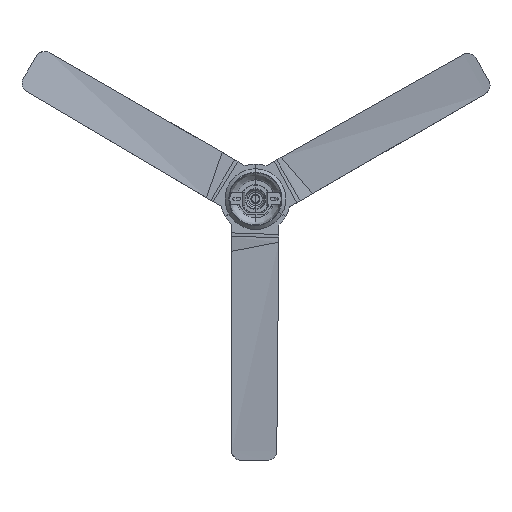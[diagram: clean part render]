
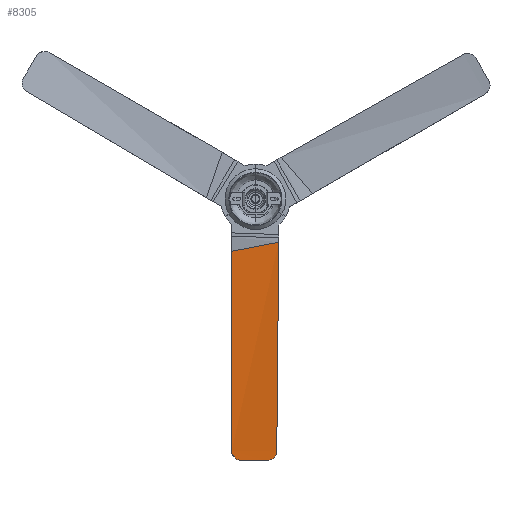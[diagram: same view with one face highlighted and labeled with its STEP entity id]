
A CAD part, top view. The second image highlights one B-rep face of the part: STEP entity #8305.
In plain terms, the highlighted free-form (B-spline) face has degree [3, 1] with [6, 2] control points.
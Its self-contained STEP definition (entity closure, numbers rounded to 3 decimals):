
#8305=ADVANCED_FACE('',(#9239),#23048,.T.);
#9239=FACE_OUTER_BOUND('',#10233,.T.);
#10233=EDGE_LOOP('',(#14435,#14436,#14437,#14438,#14439,#14440));
#14435=ORIENTED_EDGE('',*,*,#17517,.T.);
#14436=ORIENTED_EDGE('',*,*,#17536,.T.);
#14437=ORIENTED_EDGE('',*,*,#17518,.T.);
#14438=ORIENTED_EDGE('',*,*,#17524,.T.);
#14439=ORIENTED_EDGE('',*,*,#17519,.T.);
#14440=ORIENTED_EDGE('',*,*,#17535,.T.);
#17517=EDGE_CURVE('',#22673,#22674,#19304,.T.);
#17518=EDGE_CURVE('',#22675,#22676,#19305,.T.);
#17519=EDGE_CURVE('',#22677,#22678,#19306,.T.);
#17524=EDGE_CURVE('',#22676,#22677,#19311,.T.);
#17535=EDGE_CURVE('',#22678,#22673,#19322,.T.);
#17536=EDGE_CURVE('',#22674,#22675,#19323,.T.);
#19304=B_SPLINE_CURVE_WITH_KNOTS('',1,(#46526,#46527),.UNSPECIFIED.,.F.,
 .F.,(2,2),(0.,119.505),.UNSPECIFIED.);
#19305=B_SPLINE_CURVE_WITH_KNOTS('',3,(#46528,#46529,#46530,#46531,#46532,
#46533,#46534,#46535,#46536,#46537),.UNSPECIFIED.,.F.,.F.,(4,2,2,2,4),(0.,
9.898,19.216,28.878,38.429),
 .UNSPECIFIED.);
#19306=B_SPLINE_CURVE_WITH_KNOTS('',3,(#46538,#46539,#46540,#46541,#46542,
#46543,#46544,#46545,#46546,#46547),.UNSPECIFIED.,.F.,.F.,(4,2,2,2,4),(0.,
9.02,18.45,27.437,36.898),
 .UNSPECIFIED.);
#19311=B_SPLINE_CURVE_WITH_KNOTS('',3,(#46560,#46561,#46562,#46563,#46564,
#46565),.UNSPECIFIED.,.F.,.F.,(4,2,4),(-63.426,-31.713,
0.),.UNSPECIFIED.);
#19322=B_SPLINE_CURVE_WITH_KNOTS('',3,(#46610,#46611,#46612,#46613,#46614,
#46615),.UNSPECIFIED.,.F.,.F.,(4,2,4),(-520.938,-260.467,
0.),.UNSPECIFIED.);
#19323=B_SPLINE_CURVE_WITH_KNOTS('',3,(#46616,#46617,#46618,#46619,#46620,
#46621,#46622,#46623,#46624,#46625,#46626,#46627,#46628,#46629,#46630,#46631,
#46632,#46633,#46634),.UNSPECIFIED.,.F.,.F.,(4,3,3,3,3,3,4),(-496.831,
-423.855,-344.474,-248.417,-162.294,
-74.188,0.),.UNSPECIFIED.);
#22673=VERTEX_POINT('',#46463);
#22674=VERTEX_POINT('',#46464);
#22675=VERTEX_POINT('',#46465);
#22676=VERTEX_POINT('',#46466);
#22677=VERTEX_POINT('',#46467);
#22678=VERTEX_POINT('',#46468);
#23048=B_SPLINE_SURFACE_WITH_KNOTS('',3,1,((#46134,#46135),(#46136,#46137),
(#46138,#46139),(#46140,#46141),(#46142,#46143),(#46144,#46145)),
 .UNSPECIFIED.,.F.,.F.,.F.,(4,1,1,4),(2,2),(0.,184.784,
369.567,542.804),(0.,119.831),.UNSPECIFIED.);
#46134=CARTESIAN_POINT('',(9522.221,352.848,59.68));
#46135=CARTESIAN_POINT('',(9639.765,375.528,65.026));
#46136=CARTESIAN_POINT('',(9522.221,293.865,54.949));
#46137=CARTESIAN_POINT('',(9639.765,313.951,64.157));
#46138=CARTESIAN_POINT('',(9522.221,175.685,47.936));
#46139=CARTESIAN_POINT('',(9639.765,190.774,63.211));
#46140=CARTESIAN_POINT('',(9522.221,1.801,44.853));
#46141=CARTESIAN_POINT('',(9639.765,9.833,64.147));
#46142=CARTESIAN_POINT('',(9522.221,-112.88,47.435));
#46143=CARTESIAN_POINT('',(9639.765,-109.498,66.25));
#46144=CARTESIAN_POINT('',(9522.221,-168.323,49.763));
#46145=CARTESIAN_POINT('',(9639.765,-167.229,67.616));
#46463=CARTESIAN_POINT('',(9639.765,375.528,65.026));
#46464=CARTESIAN_POINT('',(9522.541,352.91,59.695));
#46465=CARTESIAN_POINT('',(9522.488,-143.513,48.835));
#46466=CARTESIAN_POINT('',(9547.288,-167.228,53.538));
#46467=CARTESIAN_POINT('',(9609.989,-167.498,63.094));
#46468=CARTESIAN_POINT('',(9634.826,-145.35,66.349));
#46526=CARTESIAN_POINT('',(9639.765,375.528,65.026));
#46527=CARTESIAN_POINT('',(9522.541,352.91,59.695));
#46528=CARTESIAN_POINT('',(9522.488,-143.513,48.835));
#46529=CARTESIAN_POINT('',(9522.66,-146.795,48.98));
#46530=CARTESIAN_POINT('',(9523.464,-150.008,49.226));
#46531=CARTESIAN_POINT('',(9526.163,-155.761,49.862));
#46532=CARTESIAN_POINT('',(9527.97,-158.28,50.238));
#46533=CARTESIAN_POINT('',(9532.482,-162.603,51.099));
#46534=CARTESIAN_POINT('',(9535.177,-164.336,51.579));
#46535=CARTESIAN_POINT('',(9541.041,-166.662,52.565));
#46536=CARTESIAN_POINT('',(9544.15,-167.247,53.061));
#46537=CARTESIAN_POINT('',(9547.288,-167.228,53.538));
#46538=CARTESIAN_POINT('',(9609.989,-167.498,63.094));
#46539=CARTESIAN_POINT('',(9612.952,-167.549,63.546));
#46540=CARTESIAN_POINT('',(9615.902,-167.053,63.98));
#46541=CARTESIAN_POINT('',(9621.612,-164.971,64.795));
#46542=CARTESIAN_POINT('',(9624.306,-163.356,65.164));
#46543=CARTESIAN_POINT('',(9628.85,-159.298,65.757));
#46544=CARTESIAN_POINT('',(9630.696,-156.93,65.983));
#46545=CARTESIAN_POINT('',(9633.548,-151.51,66.293));
#46546=CARTESIAN_POINT('',(9634.477,-148.476,66.366));
#46547=CARTESIAN_POINT('',(9634.826,-145.35,66.349));
#46560=CARTESIAN_POINT('',(9547.288,-167.228,53.538));
#46561=CARTESIAN_POINT('',(9557.738,-167.273,55.132));
#46562=CARTESIAN_POINT('',(9568.188,-167.318,56.725));
#46563=CARTESIAN_POINT('',(9589.088,-167.408,59.91));
#46564=CARTESIAN_POINT('',(9599.539,-167.453,61.502));
#46565=CARTESIAN_POINT('',(9609.989,-167.498,63.094));
#46610=CARTESIAN_POINT('',(9634.826,-145.35,66.349));
#46611=CARTESIAN_POINT('',(9635.649,-58.553,64.504));
#46612=CARTESIAN_POINT('',(9636.472,28.263,63.543));
#46613=CARTESIAN_POINT('',(9638.118,201.9,63.174));
#46614=CARTESIAN_POINT('',(9638.942,288.724,63.766));
#46615=CARTESIAN_POINT('',(9639.765,375.528,65.026));
#46616=CARTESIAN_POINT('',(9522.541,352.91,59.695));
#46617=CARTESIAN_POINT('',(9522.481,328.655,57.752));
#46618=CARTESIAN_POINT('',(9522.43,304.393,56.014));
#46619=CARTESIAN_POINT('',(9522.387,280.122,54.483));
#46620=CARTESIAN_POINT('',(9522.34,253.713,52.816));
#46621=CARTESIAN_POINT('',(9522.303,227.293,51.394));
#46622=CARTESIAN_POINT('',(9522.276,200.858,50.217));
#46623=CARTESIAN_POINT('',(9522.243,168.882,48.793));
#46624=CARTESIAN_POINT('',(9522.225,136.884,47.728));
#46625=CARTESIAN_POINT('',(9522.222,104.858,47.025));
#46626=CARTESIAN_POINT('',(9522.219,76.145,46.395));
#46627=CARTESIAN_POINT('',(9522.227,47.442,46.056));
#46628=CARTESIAN_POINT('',(9522.248,18.744,46.008));
#46629=CARTESIAN_POINT('',(9522.268,-10.626,45.959));
#46630=CARTESIAN_POINT('',(9522.302,-39.99,46.214));
#46631=CARTESIAN_POINT('',(9522.347,-69.356,46.774));
#46632=CARTESIAN_POINT('',(9522.385,-94.073,47.245));
#46633=CARTESIAN_POINT('',(9522.432,-118.791,47.932));
#46634=CARTESIAN_POINT('',(9522.488,-143.513,48.835));
